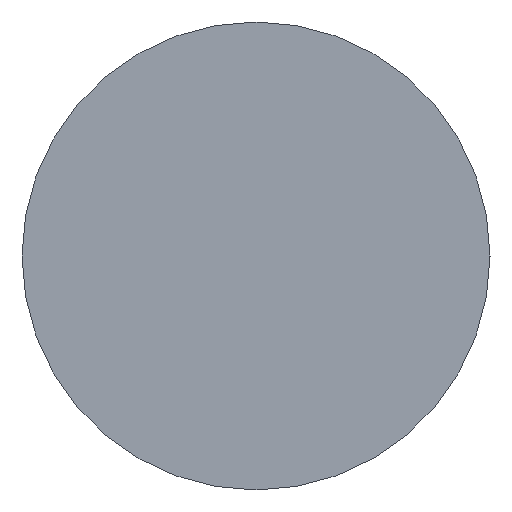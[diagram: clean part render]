
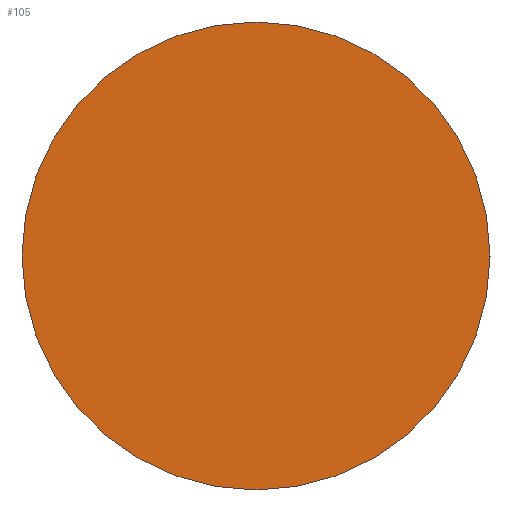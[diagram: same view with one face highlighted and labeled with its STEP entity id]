
A CAD part, left-side view. The second image highlights one B-rep face of the part: STEP entity #105.
In plain terms, the highlighted planar face has unit normal (-1, 0, 0).
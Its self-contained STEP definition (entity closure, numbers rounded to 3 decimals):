
#22 = VERTEX_POINT('',#23);
#23 = CARTESIAN_POINT('',(-47.,-3.175,0.));
#32 = CYLINDRICAL_SURFACE('',#33,3.175);
#33 = AXIS2_PLACEMENT_3D('',#34,#35,#36);
#34 = CARTESIAN_POINT('',(-47.,0.,0.));
#35 = DIRECTION('',(-1.,-0.,-0.));
#36 = DIRECTION('',(0.,-1.,0.));
#79 = EDGE_CURVE('',#22,#22,#80,.T.);
#80 = SURFACE_CURVE('',#81,(#86,#93),.PCURVE_S1.);
#81 = CIRCLE('',#82,3.175);
#82 = AXIS2_PLACEMENT_3D('',#83,#84,#85);
#83 = CARTESIAN_POINT('',(-47.,0.,0.));
#84 = DIRECTION('',(1.,0.,0.));
#85 = DIRECTION('',(0.,-1.,0.));
#86 = PCURVE('',#32,#87);
#87 = DEFINITIONAL_REPRESENTATION('',(#88),#92);
#88 = LINE('',#89,#90);
#89 = CARTESIAN_POINT('',(-0.,0.));
#90 = VECTOR('',#91,1.);
#91 = DIRECTION('',(-1.,0.));
#92 = ( GEOMETRIC_REPRESENTATION_CONTEXT(2) 
PARAMETRIC_REPRESENTATION_CONTEXT() REPRESENTATION_CONTEXT('2D SPACE',''
  ) );
#93 = PCURVE('',#94,#99);
#94 = PLANE('',#95);
#95 = AXIS2_PLACEMENT_3D('',#96,#97,#98);
#96 = CARTESIAN_POINT('',(-47.,0.,0.));
#97 = DIRECTION('',(1.,0.,0.));
#98 = DIRECTION('',(-0.,0.,1.));
#99 = DEFINITIONAL_REPRESENTATION('',(#100),#104);
#100 = CIRCLE('',#101,3.175);
#101 = AXIS2_PLACEMENT_2D('',#102,#103);
#102 = CARTESIAN_POINT('',(0.,0.));
#103 = DIRECTION('',(0.,1.));
#104 = ( GEOMETRIC_REPRESENTATION_CONTEXT(2) 
PARAMETRIC_REPRESENTATION_CONTEXT() REPRESENTATION_CONTEXT('2D SPACE',''
  ) );
#105 = ADVANCED_FACE('',(#106),#94,.F.);
#106 = FACE_BOUND('',#107,.F.);
#107 = EDGE_LOOP('',(#108));
#108 = ORIENTED_EDGE('',*,*,#79,.T.);
